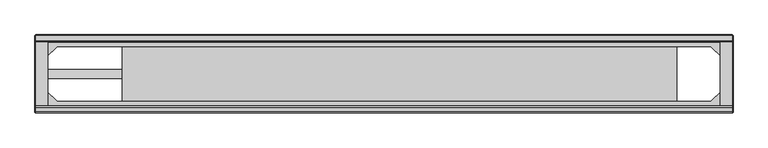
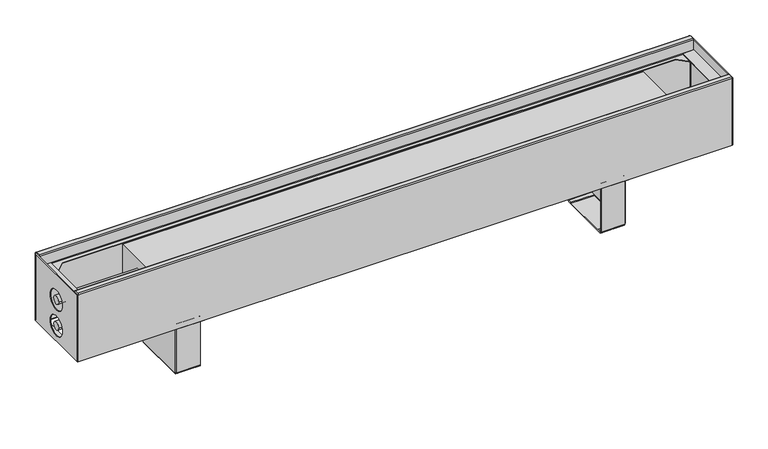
"""IFC4 building model written with IfcOpenShell, lengths in millimetres: proxy geometry, TECHNO_Конвектор напольный_Vita KPZ 135 : KPZ 135-130."""

from ifc_helpers import new_model, si_unit, point, frame, frame_2d, origin, place, context, project, spatial, polyline, circle_curve, trimmed, segment, composite_curve, outline, extrude, source, transform, mapped, element, save
from ifc_brep_helpers import plane_surface, cylinder_surface, revolved_surface, advanced_brep


def mechanical_equipment_a416251b(model_context):
    return source(origin(), model_context, "Body", "SolidModel", [
        advanced_brep(
        [(409.7, -116.8, 1.5), (409.7, -114.5, 3.8), (409.7, -114.5, 4.9), (409.7, -116.0, 4.9), (409.7, -116.0, 3.8), (409.7, -116.8, 3.0), (409.7, -124.5, 3.0), (409.7, -124.5, 1.5), (409.7, -117.6, 1.5), (409.7, -114.5, 97.7), (409.7, -113.7, 98.5), (409.7, -101.0, 98.5), (409.7, -101.0, 100.0), (409.7, -113.7, 100.0), (409.7, -116.0, 97.7), (409.7, -116.0, 95.5), (409.7, -114.5, 95.5), (409.7, -220.5, 3.8), (409.7, -218.2, 1.5), (409.7, -217.4, 1.5), (409.7, -210.5, 1.5), (409.7, -210.5, 3.0), (409.7, -218.2, 3.0), (409.7, -219.0, 3.8), (409.7, -219.0, 4.9), (409.7, -220.5, 4.9), (409.7, -219.0, 97.7), (409.7, -221.3, 100.0), (409.7, -234.0, 100.0), (409.7, -234.0, 98.5), (409.7, -221.3, 98.5), (409.7, -220.5, 97.7), (409.7, -220.5, 95.5), (409.7, -219.0, 95.5), (367.0, -220.5, 97.7), (367.0, -221.3, 98.5), (367.0, -234.0, 98.5), (367.0, -234.0, 100.0), (367.0, -221.3, 100.0), (367.0, -219.0, 97.7), (367.0, -219.0, 3.8), (367.0, -218.2, 3.0), (367.0, -210.5, 3.0), (367.0, -210.5, 1.5), (367.0, -124.5, 1.5), (367.0, -124.5, 3.0), (367.0, -116.8, 3.0), (367.0, -116.0, 3.8), (367.0, -116.0, 97.7), (367.0, -113.7, 100.0), (367.0, -101.0, 100.0), (367.0, -101.0, 98.5), (367.0, -113.7, 98.5), (367.0, -114.5, 97.7), (367.0, -114.5, 3.8), (367.0, -116.8, 1.5), (367.0, -117.6, 1.5), (367.0, -117.6, 0.0), (367.0, -217.4, 0.0), (367.0, -217.4, 1.5), (367.0, -218.2, 1.5), (367.0, -220.5, 3.8), (410.5, -116.8, 95.5), (410.5, -218.2, 95.5), (412.0, -218.2, 95.5), (412.0, -116.8, 95.5), (412.0, -116.8, 4.9), (412.0, -117.6, 4.9), (410.5, -117.6, 4.9), (410.5, -116.8, 4.9), (410.5, -218.2, 4.9), (410.5, -217.4, 4.9), (412.0, -217.4, 4.9), (412.0, -218.2, 4.9), (410.5, -117.6, 2.3), (410.5, -217.4, 2.3), (412.0, -217.4, 2.3), (412.0, -117.6, 2.3), (409.7, -117.6, 0.0), (409.7, -217.4, 0.0)],
        [
            (0, 1, circle_curve(frame((409.7, -116.8, 3.8), z_axis=(1.0, 0.0, 0.0), x_axis=(0.0, -1.0, 0.0)), 2.3)),
            (1, 2),
            (2, 3),
            (3, 4),
            (4, 5, circle_curve(frame((409.7, -116.8, 3.8), z_axis=(-1.0, 0.0, 0.0), x_axis=(0.0, -1.0, 0.0)), 0.8)),
            (5, 6),
            (6, 7),
            (7, 8),
            (8, 0),
            (9, 10, circle_curve(frame((409.7, -113.7, 97.7), z_axis=(-1.0, 0.0, 0.0), x_axis=(0.0, -1.0, 0.0)), 0.8)),
            (10, 11),
            (11, 12),
            (12, 13),
            (13, 14, circle_curve(frame((409.7, -113.7, 97.7), z_axis=(1.0, 0.0, 0.0), x_axis=(0.0, -1.0, 0.0)), 2.3)),
            (14, 15),
            (15, 16),
            (16, 9),
            (17, 18, circle_curve(frame((409.7, -218.2, 3.8), z_axis=(1.0, 0.0, 0.0), x_axis=(0.0, -1.0, 0.0)), 2.3)),
            (18, 19),
            (19, 20),
            (20, 21),
            (21, 22),
            (22, 23, circle_curve(frame((409.7, -218.2, 3.8), z_axis=(-1.0, 0.0, 0.0), x_axis=(0.0, -1.0, 0.0)), 0.8)),
            (23, 24),
            (24, 25),
            (25, 17),
            (26, 27, circle_curve(frame((409.7, -221.3, 97.7), z_axis=(1.0, 0.0, 0.0), x_axis=(0.0, -1.0, 0.0)), 2.3)),
            (27, 28),
            (28, 29),
            (29, 30),
            (30, 31, circle_curve(frame((409.7, -221.3, 97.7), z_axis=(-1.0, 0.0, 0.0), x_axis=(0.0, -1.0, 0.0)), 0.8)),
            (31, 32),
            (32, 33),
            (33, 26),
            (34, 35, circle_curve(frame((367.0, -221.3, 97.7), z_axis=(1.0, 0.0, 0.0), x_axis=(0.0, -1.0, 0.0)), 0.8)),
            (35, 36),
            (36, 37),
            (37, 38),
            (38, 39, circle_curve(frame((367.0, -221.3, 97.7), z_axis=(-1.0, 0.0, 0.0), x_axis=(0.0, -1.0, 0.0)), 2.3)),
            (39, 40),
            (40, 41, circle_curve(frame((367.0, -218.2, 3.8), z_axis=(1.0, 0.0, 0.0), x_axis=(0.0, -1.0, 0.0)), 0.8)),
            (41, 42),
            (42, 43),
            (43, 44),
            (44, 45),
            (45, 46),
            (46, 47, circle_curve(frame((367.0, -116.8, 3.8), z_axis=(1.0, 0.0, 0.0), x_axis=(0.0, -1.0, 0.0)), 0.8)),
            (47, 48),
            (48, 49, circle_curve(frame((367.0, -113.7, 97.7), z_axis=(-1.0, 0.0, 0.0), x_axis=(0.0, -1.0, 0.0)), 2.3)),
            (49, 50),
            (50, 51),
            (51, 52),
            (52, 53, circle_curve(frame((367.0, -113.7, 97.7), z_axis=(1.0, 0.0, 0.0), x_axis=(0.0, -1.0, 0.0)), 0.8)),
            (53, 54),
            (54, 55, circle_curve(frame((367.0, -116.8, 3.8), z_axis=(-1.0, 0.0, 0.0), x_axis=(0.0, -1.0, 0.0)), 2.3)),
            (55, 56),
            (56, 57),
            (57, 58),
            (58, 59),
            (59, 60),
            (60, 61, circle_curve(frame((367.0, -218.2, 3.8), z_axis=(-1.0, 0.0, 0.0), x_axis=(0.0, -1.0, 0.0)), 2.3)),
            (61, 34),
            (30, 35),
            (34, 31),
            (29, 36),
            (28, 37),
            (27, 38),
            (26, 39),
            (33, 24),
            (23, 40),
            (22, 41),
            (5, 46),
            (45, 6),
            (4, 47),
            (3, 15),
            (14, 48),
            (13, 49),
            (12, 50),
            (11, 51),
            (10, 52),
            (9, 53),
            (16, 2),
            (1, 54),
            (0, 55),
            (8, 56),
            (17, 61),
            (60, 18),
            (25, 32),
            (21, 42),
            (20, 43),
            (59, 19),
            (44, 7),
            (15, 62, circle_curve(frame((409.7, -116.8, 95.5), z_axis=(0.0, 0.0, -1.0), x_axis=(-1.0, 0.0, 0.0)), 0.8)),
            (62, 63),
            (63, 33, circle_curve(frame((409.7, -218.2, 95.5), z_axis=(0.0, 0.0, -1.0), x_axis=(-1.0, 0.0, 0.0)), 0.8)),
            (32, 64, circle_curve(frame((409.7, -218.2, 95.5), z_axis=(0.0, 0.0, 1.0), x_axis=(-1.0, 0.0, 0.0)), 2.3)),
            (64, 65),
            (65, 16, circle_curve(frame((409.7, -116.8, 95.5), z_axis=(0.0, 0.0, 1.0), x_axis=(-1.0, 0.0, 0.0)), 2.3)),
            (2, 66, circle_curve(frame((409.7, -116.8, 4.9), z_axis=(0.0, 0.0, -1.0), x_axis=(-1.0, 0.0, 0.0)), 2.3)),
            (66, 67),
            (67, 68),
            (68, 69),
            (69, 3, circle_curve(frame((409.7, -116.8, 4.9), z_axis=(0.0, 0.0, 1.0), x_axis=(-1.0, 0.0, 0.0)), 0.8)),
            (24, 70, circle_curve(frame((409.7, -218.2, 4.9), z_axis=(0.0, 0.0, 1.0), x_axis=(-1.0, 0.0, 0.0)), 0.8)),
            (70, 71),
            (71, 72),
            (72, 73),
            (73, 25, circle_curve(frame((409.7, -218.2, 4.9), z_axis=(0.0, 0.0, -1.0), x_axis=(-1.0, 0.0, 0.0)), 2.3)),
            (69, 62),
            (68, 74),
            (74, 75),
            (75, 71),
            (70, 63),
            (64, 73),
            (72, 76),
            (76, 77),
            (77, 67),
            (66, 65),
            (8, 74, circle_curve(frame((409.7, -117.6, 2.3), z_axis=(0.0, -1.0, 0.0), x_axis=(-1.0, 0.0, 0.0)), 0.8)),
            (77, 78, circle_curve(frame((409.7, -117.6, 2.3), z_axis=(0.0, 1.0, 0.0), x_axis=(-1.0, 0.0, 0.0)), 2.3)),
            (78, 57),
            (58, 79),
            (79, 76, circle_curve(frame((409.7, -217.4, 2.3), z_axis=(0.0, -1.0, 0.0), x_axis=(-1.0, 0.0, 0.0)), 2.3)),
            (75, 19, circle_curve(frame((409.7, -217.4, 2.3), z_axis=(0.0, 1.0, 0.0), x_axis=(-1.0, 0.0, 0.0)), 0.8)),
            (20, 7),
            (79, 78),
        ],
        [
            plane_surface(frame((409.7, -222.1, 97.7), z_axis=(1.0, 0.0, 0.0), x_axis=(0.0, 0.0, 1.0))),
            plane_surface(frame((367.0, -222.1, 97.7), z_axis=(-1.0, 0.0, 0.0), x_axis=(0.0, 0.0, -1.0))),
            revolved_surface(polyline([(409.7, -222.10000000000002, 97.7), (367.0, -222.10000000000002, 97.7)]), (409.7, -221.3, 97.7), (1.0, 0.0, 0.0)),
            plane_surface(frame((367.0, -221.3, 98.5), z_axis=(0.0, 0.0, -1.0), x_axis=(1.0, 0.0, 0.0))),
            plane_surface(frame((367.0, -234.0, 98.5), z_axis=(0.0, -1.0, 0.0), x_axis=(1.0, 0.0, 0.0))),
            plane_surface(frame((367.0, -234.0, 100.0), z_axis=(0.0, 0.0, 1.0), x_axis=(1.0, 0.0, 0.0))),
            cylinder_surface(frame((409.7, -221.3, 97.7), z_axis=(-1.0, 0.0, 0.0), x_axis=(0.0, -1.0, 0.0)), 2.3),
            plane_surface(frame((367.0, -219.0, 97.7), z_axis=(0.0, 1.0, 0.0), x_axis=(1.0, 0.0, 0.0))),
            revolved_surface(polyline([(409.7, -219.0, 3.8), (367.0, -219.0, 3.8)]), (409.7, -218.2, 3.8), (1.0, 0.0, 0.0)),
            plane_surface(frame((367.0, -124.5, 3.0), z_axis=(0.0, 0.0, 1.0), x_axis=(1.0, 0.0, 0.0))),
            revolved_surface(polyline([(409.7, -117.6, 3.8), (367.0, -117.6, 3.8)]), (412.0, -116.8, 3.8), (1.0, 0.0, 0.0)),
            plane_surface(frame((367.0, -116.0, 3.8), z_axis=(0.0, -1.0, 0.0), x_axis=(1.0, 0.0, 0.0))),
            cylinder_surface(frame((412.0, -113.7, 97.7), z_axis=(-1.0, 0.0, 0.0), x_axis=(0.0, -1.0, 0.0)), 2.3),
            plane_surface(frame((367.0, -113.7, 100.0), z_axis=(0.0, 0.0, 1.0), x_axis=(1.0, 0.0, 0.0))),
            plane_surface(frame((367.0, -101.0, 100.0), z_axis=(0.0, 1.0, 0.0), x_axis=(1.0, 0.0, 0.0))),
            plane_surface(frame((367.0, -101.0, 98.5), z_axis=(0.0, 0.0, -1.0), x_axis=(1.0, 0.0, 0.0))),
            revolved_surface(polyline([(409.7, -114.5, 97.7), (367.0, -114.5, 97.7)]), (412.0, -113.7, 97.7), (1.0, 0.0, 0.0)),
            plane_surface(frame((367.0, -114.5, 97.7), z_axis=(0.0, 1.0, 0.0), x_axis=(1.0, 0.0, 0.0))),
            cylinder_surface(frame((412.0, -116.8, 3.8), z_axis=(-1.0, 0.0, 0.0), x_axis=(0.0, -1.0, 0.0)), 2.3),
            plane_surface(frame((367.0, -116.8, 1.5), z_axis=(0.0, 0.0, -1.0), x_axis=(1.0, 0.0, 0.0))),
            cylinder_surface(frame((409.7, -218.2, 3.8), z_axis=(-1.0, 0.0, 0.0), x_axis=(0.0, -1.0, 0.0)), 2.3),
            plane_surface(frame((367.0, -220.5, 3.8), z_axis=(0.0, -1.0, 0.0), x_axis=(1.0, 0.0, 0.0))),
            plane_surface(frame((367.0, -218.2, 3.0), z_axis=(0.0, 0.0, 1.0), x_axis=(1.0, 0.0, 0.0))),
            plane_surface(frame((367.0, -210.5, 3.0), z_axis=(0.0, 1.0, 0.0), x_axis=(1.0, 0.0, 0.0))),
            plane_surface(frame((367.0, -210.5, 1.5), z_axis=(0.0, 0.0, -1.0), x_axis=(1.0, 0.0, 0.0))),
            plane_surface(frame((367.0, -124.5, 1.5), z_axis=(0.0, -1.0, 0.0), x_axis=(1.0, 0.0, 0.0))),
            plane_surface(frame((409.7, -116.0, 95.5), z_axis=(0.0, 0.0, 1.0), x_axis=(0.0, -1.0, 0.0))),
            plane_surface(frame((409.7, -116.0, 4.9), z_axis=(0.0, 0.0, -1.0), x_axis=(0.0, 1.0, 0.0))),
            revolved_surface(polyline([(408.9, -116.8, 4.9), (408.9, -116.8, 95.5)]), (409.7, -116.8, 4.9), (0.0, 0.0, -1.0)),
            plane_surface(frame((410.5, -116.8, 95.5), z_axis=(-1.0, 0.0, 0.0), x_axis=(0.0, 0.0, -1.0))),
            plane_surface(frame((412.0, -117.6, 95.5), z_axis=(1.0, 0.0, 0.0), x_axis=(0.0, 0.0, -1.0))),
            cylinder_surface(frame((409.7, -116.8, 4.9), z_axis=(0.0, 0.0, 1.0), x_axis=(-1.0, 0.0, 0.0)), 2.3),
            cylinder_surface(frame((409.7, -218.2, 0.0), z_axis=(0.0, 0.0, 1.0), x_axis=(-1.0, 0.0, 0.0)), 2.3),
            revolved_surface(polyline([(408.9, -218.2, 4.9), (408.9, -218.2, 95.5)]), (409.7, -218.2, 0.0), (0.0, 0.0, -1.0)),
            plane_surface(frame((367.0, -117.6, 1.5), z_axis=(0.0, 1.0, 0.0), x_axis=(0.0, 0.0, 1.0))),
            plane_surface(frame((367.0, -217.4, 1.5), z_axis=(0.0, -1.0, 0.0), x_axis=(0.0, 0.0, -1.0))),
            plane_surface(frame((367.0, -117.6, 1.5), z_axis=(0.0, 0.0, 1.0), x_axis=(0.0, -1.0, 0.0))),
            revolved_surface(polyline([(408.9, -217.4, 2.3), (408.9, -117.6, 2.3)]), (409.7, -217.4, 2.3), (0.0, -1.0, 0.0)),
            cylinder_surface(frame((409.7, -217.4, 2.3), z_axis=(0.0, 1.0, 0.0), x_axis=(-1.0, 0.0, 0.0)), 2.3),
            plane_surface(frame((409.7, -117.6, 0.0), z_axis=(0.0, 0.0, -1.0), x_axis=(0.0, -1.0, 0.0))),
        ],
        [
            (0, [[1, 2, 3, 4, 5, 6, 7, 8, 9]]),
            (0, [[10, 11, 12, 13, 14, 15, 16, 17]]),
            (0, [[18, 19, 20, 21, 22, 23, 24, 25, 26]]),
            (0, [[27, 28, 29, 30, 31, 32, 33, 34]]),
            (1, [[35, 36, 37, 38, 39, 40, 41, 42, 43, 44, 45, 46, 47, 48, 49, 50, 51, 52, 53, 54, 55, 56, 57, 58, 59, 60, 61, 62]]),
            (2, [[-31, 63, -35, 64]]),
            (3, [[-30, 65, -36, -63]]),
            (4, [[-29, 66, -37, -65]]),
            (5, [[-28, 67, -38, -66]]),
            (6, [[-27, 68, -39, -67]]),
            (7, [[-40, -68, -34, 69, -24, 70]]),
            (8, [[-23, 71, -41, -70]]),
            (9, [[-6, 72, -46, 73]]),
            (10, [[-5, 74, -47, -72]]),
            (11, [[-48, -74, -4, 75, -15, 76]]),
            (12, [[-14, 77, -49, -76]]),
            (13, [[-13, 78, -50, -77]]),
            (14, [[-12, 79, -51, -78]]),
            (15, [[-11, 80, -52, -79]]),
            (16, [[-10, 81, -53, -80]]),
            (17, [[-54, -81, -17, 82, -2, 83]]),
            (18, [[-1, 84, -55, -83]]),
            (19, [[-84, -9, 85, -56]]),
            (20, [[-18, 86, -61, 87]]),
            (21, [[-62, -86, -26, 88, -32, -64]]),
            (22, [[-22, 89, -42, -71]]),
            (23, [[-21, 90, -43, -89]]),
            (24, [[-87, -60, 91, -19]]),
            (25, [[-7, -73, -45, 92]]),
            (26, [[93, 94, 95, -33, 96, 97, 98, -16]]),
            (27, [[99, 100, 101, 102, 103, -3]]),
            (27, [[104, 105, 106, 107, 108, -25]]),
            (28, [[-93, -75, -103, 109]]),
            (29, [[-94, -109, -102, 110, 111, 112, -105, 113]]),
            (30, [[-97, 114, -107, 115, 116, 117, -100, 118]]),
            (31, [[-98, -118, -99, -82]]),
            (32, [[-96, -88, -108, -114]]),
            (33, [[-95, -113, -104, -69]]),
            (34, [[-57, -85, 119, -110, -101, -117, 120, 121]]),
            (35, [[122, 123, -115, -106, -112, 124, -91, -59]]),
            (36, [[125, -92, -44, -90]]),
            (37, [[-119, -8, -125, -20, -124, -111]]),
            (38, [[-120, -116, -123, 126]]),
            (39, [[-121, -126, -122, -58]]),
        ],
    ),
        advanced_brep(
        [(-409.7, -218.2, 1.5), (-409.7, -220.5, 3.8), (-409.7, -220.5, 4.9), (-409.7, -219.0, 4.9), (-409.7, -219.0, 3.8), (-409.7, -218.2, 3.0), (-409.7, -210.5, 3.0), (-409.7, -210.5, 1.5), (-409.7, -217.4, 1.5), (-409.7, -220.5, 97.7), (-409.7, -221.3, 98.5), (-409.7, -234.0, 98.5), (-409.7, -234.0, 100.0), (-409.7, -221.3, 100.0), (-409.7, -219.0, 97.7), (-409.7, -219.0, 95.5), (-409.7, -220.5, 95.5), (-409.7, -114.5, 3.8), (-409.7, -116.8, 1.5), (-409.7, -117.6, 1.5), (-409.7, -124.5, 1.5), (-409.7, -124.5, 3.0), (-409.7, -116.8, 3.0), (-409.7, -116.0, 3.8), (-409.7, -116.0, 4.9), (-409.7, -114.5, 4.9), (-409.7, -116.0, 97.7), (-409.7, -113.7, 100.0), (-409.7, -101.0, 100.0), (-409.7, -101.0, 98.5), (-409.7, -113.7, 98.5), (-409.7, -114.5, 97.7), (-409.7, -114.5, 95.5), (-409.7, -116.0, 95.5), (-367.0, -114.5, 97.7), (-367.0, -113.7, 98.5), (-367.0, -101.0, 98.5), (-367.0, -101.0, 100.0), (-367.0, -113.7, 100.0), (-367.0, -116.0, 97.7), (-367.0, -116.0, 3.8), (-367.0, -116.8, 3.0), (-367.0, -124.5, 3.0), (-367.0, -124.5, 1.5), (-367.0, -210.5, 1.5), (-367.0, -210.5, 3.0), (-367.0, -218.2, 3.0), (-367.0, -219.0, 3.8), (-367.0, -219.0, 97.7), (-367.0, -221.3, 100.0), (-367.0, -234.0, 100.0), (-367.0, -234.0, 98.5), (-367.0, -221.3, 98.5), (-367.0, -220.5, 97.7), (-367.0, -220.5, 3.8), (-367.0, -218.2, 1.5), (-367.0, -217.4, 1.5), (-367.0, -217.4, 0.0), (-367.0, -117.6, 0.0), (-367.0, -117.6, 1.5), (-367.0, -116.8, 1.5), (-367.0, -114.5, 3.8), (-410.5, -218.2, 95.5), (-410.5, -116.8, 95.5), (-412.0, -116.8, 95.5), (-412.0, -218.2, 95.5), (-412.0, -218.2, 4.9), (-412.0, -217.4, 4.9), (-410.5, -217.4, 4.9), (-410.5, -218.2, 4.9), (-410.5, -116.8, 4.9), (-410.5, -117.6, 4.9), (-412.0, -117.6, 4.9), (-412.0, -116.8, 4.9), (-410.5, -217.4, 2.3), (-410.5, -117.6, 2.3), (-412.0, -117.6, 2.3), (-412.0, -217.4, 2.3), (-409.7, -217.4, 0.0), (-409.7, -117.6, 0.0)],
        [
            (0, 1, circle_curve(frame((-409.7, -218.2, 3.8), z_axis=(-1.0, 0.0, 0.0), x_axis=(0.0, 1.0, 0.0)), 2.3)),
            (1, 2),
            (2, 3),
            (3, 4),
            (4, 5, circle_curve(frame((-409.7, -218.2, 3.8), z_axis=(1.0, 0.0, 0.0), x_axis=(0.0, 1.0, 0.0)), 0.8)),
            (5, 6),
            (6, 7),
            (7, 8),
            (8, 0),
            (9, 10, circle_curve(frame((-409.7, -221.3, 97.7), z_axis=(1.0, 0.0, 0.0), x_axis=(0.0, 1.0, 0.0)), 0.8)),
            (10, 11),
            (11, 12),
            (12, 13),
            (13, 14, circle_curve(frame((-409.7, -221.3, 97.7), z_axis=(-1.0, 0.0, 0.0), x_axis=(0.0, 1.0, 0.0)), 2.3)),
            (14, 15),
            (15, 16),
            (16, 9),
            (17, 18, circle_curve(frame((-409.7, -116.8, 3.8), z_axis=(-1.0, 0.0, 0.0), x_axis=(0.0, 1.0, 0.0)), 2.3)),
            (18, 19),
            (19, 20),
            (20, 21),
            (21, 22),
            (22, 23, circle_curve(frame((-409.7, -116.8, 3.8), z_axis=(1.0, 0.0, 0.0), x_axis=(0.0, 1.0, 0.0)), 0.8)),
            (23, 24),
            (24, 25),
            (25, 17),
            (26, 27, circle_curve(frame((-409.7, -113.7, 97.7), z_axis=(-1.0, 0.0, 0.0), x_axis=(0.0, 1.0, 0.0)), 2.3)),
            (27, 28),
            (28, 29),
            (29, 30),
            (30, 31, circle_curve(frame((-409.7, -113.7, 97.7), z_axis=(1.0, 0.0, 0.0), x_axis=(0.0, 1.0, 0.0)), 0.8)),
            (31, 32),
            (32, 33),
            (33, 26),
            (34, 35, circle_curve(frame((-367.0, -113.7, 97.7), z_axis=(-1.0, 0.0, 0.0), x_axis=(0.0, 1.0, 0.0)), 0.8)),
            (35, 36),
            (36, 37),
            (37, 38),
            (38, 39, circle_curve(frame((-367.0, -113.7, 97.7), z_axis=(1.0, 0.0, 0.0), x_axis=(0.0, 1.0, 0.0)), 2.3)),
            (39, 40),
            (40, 41, circle_curve(frame((-367.0, -116.8, 3.8), z_axis=(-1.0, 0.0, 0.0), x_axis=(0.0, 1.0, 0.0)), 0.8)),
            (41, 42),
            (42, 43),
            (43, 44),
            (44, 45),
            (45, 46),
            (46, 47, circle_curve(frame((-367.0, -218.2, 3.8), z_axis=(-1.0, 0.0, 0.0), x_axis=(0.0, 1.0, 0.0)), 0.8)),
            (47, 48),
            (48, 49, circle_curve(frame((-367.0, -221.3, 97.7), z_axis=(1.0, 0.0, 0.0), x_axis=(0.0, 1.0, 0.0)), 2.3)),
            (49, 50),
            (50, 51),
            (51, 52),
            (52, 53, circle_curve(frame((-367.0, -221.3, 97.7), z_axis=(-1.0, 0.0, 0.0), x_axis=(0.0, 1.0, 0.0)), 0.8)),
            (53, 54),
            (54, 55, circle_curve(frame((-367.0, -218.2, 3.8), z_axis=(1.0, 0.0, 0.0), x_axis=(0.0, 1.0, 0.0)), 2.3)),
            (55, 56),
            (56, 57),
            (57, 58),
            (58, 59),
            (59, 60),
            (60, 61, circle_curve(frame((-367.0, -116.8, 3.8), z_axis=(1.0, 0.0, 0.0), x_axis=(0.0, 1.0, 0.0)), 2.3)),
            (61, 34),
            (30, 35),
            (34, 31),
            (29, 36),
            (28, 37),
            (27, 38),
            (26, 39),
            (33, 24),
            (23, 40),
            (22, 41),
            (5, 46),
            (45, 6),
            (4, 47),
            (3, 15),
            (14, 48),
            (13, 49),
            (12, 50),
            (11, 51),
            (10, 52),
            (9, 53),
            (16, 2),
            (1, 54),
            (0, 55),
            (8, 56),
            (17, 61),
            (60, 18),
            (25, 32),
            (21, 42),
            (20, 43),
            (59, 19),
            (44, 7),
            (15, 62, circle_curve(frame((-409.7, -218.2, 95.5), z_axis=(0.0, 0.0, -1.0), x_axis=(1.0, 0.0, 0.0)), 0.8)),
            (62, 63),
            (63, 33, circle_curve(frame((-409.7, -116.8, 95.5), z_axis=(0.0, 0.0, -1.0), x_axis=(1.0, 0.0, 0.0)), 0.8)),
            (32, 64, circle_curve(frame((-409.7, -116.8, 95.5), z_axis=(0.0, 0.0, 1.0), x_axis=(1.0, 0.0, 0.0)), 2.3)),
            (64, 65),
            (65, 16, circle_curve(frame((-409.7, -218.2, 95.5), z_axis=(0.0, 0.0, 1.0), x_axis=(1.0, 0.0, 0.0)), 2.3)),
            (2, 66, circle_curve(frame((-409.7, -218.2, 4.9), z_axis=(0.0, 0.0, -1.0), x_axis=(1.0, 0.0, 0.0)), 2.3)),
            (66, 67),
            (67, 68),
            (68, 69),
            (69, 3, circle_curve(frame((-409.7, -218.2, 4.9), z_axis=(0.0, 0.0, 1.0), x_axis=(1.0, 0.0, 0.0)), 0.8)),
            (24, 70, circle_curve(frame((-409.7, -116.8, 4.9), z_axis=(0.0, 0.0, 1.0), x_axis=(1.0, 0.0, 0.0)), 0.8)),
            (70, 71),
            (71, 72),
            (72, 73),
            (73, 25, circle_curve(frame((-409.7, -116.8, 4.9), z_axis=(0.0, 0.0, -1.0), x_axis=(1.0, 0.0, 0.0)), 2.3)),
            (69, 62),
            (68, 74),
            (74, 75),
            (75, 71),
            (70, 63),
            (64, 73),
            (72, 76),
            (76, 77),
            (77, 67),
            (66, 65),
            (8, 74, circle_curve(frame((-409.7, -217.4, 2.3), z_axis=(0.0, 1.0, 0.0), x_axis=(1.0, 0.0, 0.0)), 0.8)),
            (77, 78, circle_curve(frame((-409.7, -217.4, 2.3), z_axis=(0.0, -1.0, 0.0), x_axis=(1.0, 0.0, 0.0)), 2.3)),
            (78, 57),
            (58, 79),
            (79, 76, circle_curve(frame((-409.7, -117.6, 2.3), z_axis=(0.0, 1.0, 0.0), x_axis=(1.0, 0.0, 0.0)), 2.3)),
            (75, 19, circle_curve(frame((-409.7, -117.6, 2.3), z_axis=(0.0, -1.0, 0.0), x_axis=(1.0, 0.0, 0.0)), 0.8)),
            (20, 7),
            (79, 78),
        ],
        [
            plane_surface(frame((-409.7, -112.9, 97.7), z_axis=(-1.0, 0.0, 0.0), x_axis=(0.0, 0.0, 1.0))),
            plane_surface(frame((-367.0, -112.9, 97.7), z_axis=(1.0, 0.0, 0.0), x_axis=(0.0, 0.0, -1.0))),
            revolved_surface(polyline([(-409.7, -112.9, 97.7), (-367.0, -112.9, 97.7)]), (-409.7, -113.7, 97.7), (-1.0, 0.0, 0.0)),
            plane_surface(frame((-367.0, -113.7, 98.5), z_axis=(0.0, 0.0, -1.0), x_axis=(-1.0, 0.0, 0.0))),
            plane_surface(frame((-367.0, -101.0, 98.5), z_axis=(0.0, 1.0, 0.0), x_axis=(-1.0, 0.0, 0.0))),
            plane_surface(frame((-367.0, -101.0, 100.0), z_axis=(0.0, 0.0, 1.0), x_axis=(-1.0, 0.0, 0.0))),
            cylinder_surface(frame((-409.7, -113.7, 97.7), z_axis=(1.0, 0.0, 0.0), x_axis=(0.0, 1.0, 0.0)), 2.3),
            plane_surface(frame((-367.0, -116.0, 97.7), z_axis=(0.0, -1.0, 0.0), x_axis=(-1.0, 0.0, 0.0))),
            revolved_surface(polyline([(-409.7, -116.0, 3.8), (-367.0, -116.0, 3.8)]), (-409.7, -116.8, 3.8), (-1.0, 0.0, 0.0)),
            plane_surface(frame((-367.0, -210.5, 3.0), z_axis=(0.0, 0.0, 1.0), x_axis=(-1.0, 0.0, 0.0))),
            revolved_surface(polyline([(-409.7, -217.39999999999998, 3.8), (-367.0, -217.39999999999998, 3.8)]), (-412.0, -218.2, 3.8), (-1.0, 0.0, 0.0)),
            plane_surface(frame((-367.0, -219.0, 3.8), z_axis=(0.0, 1.0, 0.0), x_axis=(-1.0, 0.0, 0.0))),
            cylinder_surface(frame((-412.0, -221.3, 97.7), z_axis=(1.0, 0.0, 0.0), x_axis=(0.0, 1.0, 0.0)), 2.3),
            plane_surface(frame((-367.0, -221.3, 100.0), z_axis=(0.0, 0.0, 1.0), x_axis=(-1.0, 0.0, 0.0))),
            plane_surface(frame((-367.0, -234.0, 100.0), z_axis=(0.0, -1.0, 0.0), x_axis=(-1.0, 0.0, 0.0))),
            plane_surface(frame((-367.0, -234.0, 98.5), z_axis=(0.0, 0.0, -1.0), x_axis=(-1.0, 0.0, 0.0))),
            revolved_surface(polyline([(-409.7, -220.5, 97.7), (-367.0, -220.5, 97.7)]), (-412.0, -221.3, 97.7), (-1.0, 0.0, 0.0)),
            plane_surface(frame((-367.0, -220.5, 97.7), z_axis=(0.0, -1.0, 0.0), x_axis=(-1.0, 0.0, 0.0))),
            cylinder_surface(frame((-412.0, -218.2, 3.8), z_axis=(1.0, 0.0, 0.0), x_axis=(0.0, 1.0, 0.0)), 2.3),
            plane_surface(frame((-367.0, -218.2, 1.5), z_axis=(0.0, 0.0, -1.0), x_axis=(-1.0, 0.0, 0.0))),
            cylinder_surface(frame((-409.7, -116.8, 3.8), z_axis=(1.0, 0.0, 0.0), x_axis=(0.0, 1.0, 0.0)), 2.3),
            plane_surface(frame((-367.0, -114.5, 3.8), z_axis=(0.0, 1.0, 0.0), x_axis=(-1.0, 0.0, 0.0))),
            plane_surface(frame((-367.0, -116.8, 3.0), z_axis=(0.0, 0.0, 1.0), x_axis=(-1.0, 0.0, 0.0))),
            plane_surface(frame((-367.0, -124.5, 3.0), z_axis=(0.0, -1.0, 0.0), x_axis=(-1.0, 0.0, 0.0))),
            plane_surface(frame((-367.0, -124.5, 1.5), z_axis=(0.0, 0.0, -1.0), x_axis=(-1.0, 0.0, 0.0))),
            plane_surface(frame((-367.0, -210.5, 1.5), z_axis=(0.0, 1.0, 0.0), x_axis=(-1.0, 0.0, 0.0))),
            plane_surface(frame((-409.7, -219.0, 95.5), z_axis=(0.0, 0.0, 1.0), x_axis=(0.0, 1.0, 0.0))),
            plane_surface(frame((-409.7, -219.0, 4.9), z_axis=(0.0, 0.0, -1.0), x_axis=(0.0, -1.0, 0.0))),
            revolved_surface(polyline([(-408.9, -218.2, 4.9), (-408.9, -218.2, 95.5)]), (-409.7, -218.2, 4.9), (0.0, 0.0, -1.0)),
            plane_surface(frame((-410.5, -218.2, 95.5), z_axis=(1.0, 0.0, 0.0), x_axis=(0.0, 0.0, -1.0))),
            plane_surface(frame((-412.0, -217.4, 95.5), z_axis=(-1.0, 0.0, 0.0), x_axis=(0.0, 0.0, -1.0))),
            cylinder_surface(frame((-409.7, -218.2, 4.9), z_axis=(0.0, 0.0, 1.0), x_axis=(1.0, 0.0, 0.0)), 2.3),
            cylinder_surface(frame((-409.7, -116.8, 0.0), z_axis=(0.0, 0.0, 1.0), x_axis=(1.0, 0.0, 0.0)), 2.3),
            revolved_surface(polyline([(-408.9, -116.8, 4.9), (-408.9, -116.8, 95.5)]), (-409.7, -116.8, 0.0), (0.0, 0.0, -1.0)),
            plane_surface(frame((-367.0, -217.4, 1.5), z_axis=(0.0, -1.0, 0.0), x_axis=(0.0, 0.0, 1.0))),
            plane_surface(frame((-367.0, -117.6, 1.5), z_axis=(0.0, 1.0, 0.0), x_axis=(0.0, 0.0, -1.0))),
            plane_surface(frame((-367.0, -217.4, 1.5), z_axis=(0.0, 0.0, 1.0), x_axis=(0.0, 1.0, 0.0))),
            revolved_surface(polyline([(-408.9, -117.6, 2.3), (-408.9, -217.4, 2.3)]), (-409.7, -117.6, 2.3), (0.0, 1.0, 0.0)),
            cylinder_surface(frame((-409.7, -117.6, 2.3), z_axis=(0.0, -1.0, 0.0), x_axis=(1.0, 0.0, 0.0)), 2.3),
            plane_surface(frame((-409.7, -217.4, 0.0), z_axis=(0.0, 0.0, -1.0), x_axis=(0.0, 1.0, 0.0))),
        ],
        [
            (0, [[1, 2, 3, 4, 5, 6, 7, 8, 9]]),
            (0, [[10, 11, 12, 13, 14, 15, 16, 17]]),
            (0, [[18, 19, 20, 21, 22, 23, 24, 25, 26]]),
            (0, [[27, 28, 29, 30, 31, 32, 33, 34]]),
            (1, [[35, 36, 37, 38, 39, 40, 41, 42, 43, 44, 45, 46, 47, 48, 49, 50, 51, 52, 53, 54, 55, 56, 57, 58, 59, 60, 61, 62]]),
            (2, [[-31, 63, -35, 64]]),
            (3, [[-30, 65, -36, -63]]),
            (4, [[-29, 66, -37, -65]]),
            (5, [[-28, 67, -38, -66]]),
            (6, [[-27, 68, -39, -67]]),
            (7, [[-40, -68, -34, 69, -24, 70]]),
            (8, [[-23, 71, -41, -70]]),
            (9, [[-6, 72, -46, 73]]),
            (10, [[-5, 74, -47, -72]]),
            (11, [[-48, -74, -4, 75, -15, 76]]),
            (12, [[-14, 77, -49, -76]]),
            (13, [[-13, 78, -50, -77]]),
            (14, [[-12, 79, -51, -78]]),
            (15, [[-11, 80, -52, -79]]),
            (16, [[-10, 81, -53, -80]]),
            (17, [[-54, -81, -17, 82, -2, 83]]),
            (18, [[-1, 84, -55, -83]]),
            (19, [[-84, -9, 85, -56]]),
            (20, [[-18, 86, -61, 87]]),
            (21, [[-62, -86, -26, 88, -32, -64]]),
            (22, [[-22, 89, -42, -71]]),
            (23, [[-21, 90, -43, -89]]),
            (24, [[-87, -60, 91, -19]]),
            (25, [[-7, -73, -45, 92]]),
            (26, [[93, 94, 95, -33, 96, 97, 98, -16]]),
            (27, [[99, 100, 101, 102, 103, -3]]),
            (27, [[104, 105, 106, 107, 108, -25]]),
            (28, [[-93, -75, -103, 109]]),
            (29, [[-94, -109, -102, 110, 111, 112, -105, 113]]),
            (30, [[-97, 114, -107, 115, 116, 117, -100, 118]]),
            (31, [[-98, -118, -99, -82]]),
            (32, [[-96, -88, -108, -114]]),
            (33, [[-95, -113, -104, -69]]),
            (34, [[-57, -85, 119, -110, -101, -117, 120, 121]]),
            (35, [[122, 123, -115, -106, -112, 124, -91, -59]]),
            (36, [[125, -92, -44, -90]]),
            (37, [[-119, -8, -125, -20, -124, -111]]),
            (38, [[-120, -116, -123, 126]]),
            (39, [[-121, -126, -122, -58]]),
        ],
    ),
        extrude(outline(polyline([(503.5, -117.5), (503.5, -217.5), (-449.5, -217.5), (-449.5, -117.5), (503.5, -117.5)])), frame((0.0, 0.0, 103.87), z_axis=(0.0, 0.0, 1.0), x_axis=(1.0, 0.0, 0.0)), (0.0, 0.0, 1.0), 100.0),
        extrude(outline(composite_curve([segment(trimmed(circle_curve(frame_2d((-167.5, 179.0)), 7.5), [point((-175.0, 179.0))], [point((-160.0, 179.0))], False, "CARTESIAN"), True, "CONTINUOUS"), segment(trimmed(circle_curve(frame_2d((-167.5, 179.0)), 7.5), [point((-160.0, 179.0))], [point((-175.0, 179.0))], False, "CARTESIAN"), True, "CONTINUOUS")], self_intersect=False)), frame((-600.0, 0.0, 0.0), z_axis=(1.0, 0.0, 0.0), x_axis=(0.0, 1.0, 0.0)), (0.0, 0.0, 1.0), 150.5),
        extrude(outline(composite_curve([segment(trimmed(circle_curve(frame_2d((-167.5, 129.0)), 7.5), [point((-175.0, 129.0))], [point((-160.0, 129.0))], False, "CARTESIAN"), True, "CONTINUOUS"), segment(trimmed(circle_curve(frame_2d((-167.5, 129.0)), 7.5), [point((-160.0, 129.0))], [point((-175.0, 129.0))], False, "CARTESIAN"), True, "CONTINUOUS")], self_intersect=False)), frame((-600.0, 0.0, 0.0), z_axis=(1.0, 0.0, 0.0), x_axis=(0.0, 1.0, 0.0)), (0.0, 0.0, 1.0), 150.5),
        extrude(outline(polyline([(-585.5004, -102.0), (-585.5004, -233.0), (-599.0, -233.0), (-599.0, -102.0), (-585.5004, -102.0)])), frame((0.0, 0.0, 101.83), z_axis=(0.0, 0.0, 1.0), x_axis=(1.0, 0.0, 0.0)), (0.0, 0.0, 1.0), 1.0002),
        extrude(outline(polyline([(585.5004, -102.0), (599.0, -102.0), (599.0, -233.0), (585.5004, -233.0), (585.5004, -102.0)])), frame((0.0, 0.0, 101.83), z_axis=(0.0, 0.0, 1.0), x_axis=(1.0, 0.0, 0.0)), (0.0, 0.0, 1.0), 1.0002),
        extrude(outline(polyline([(-599.0, -222.2), (-599.0, -112.8), (-578.0, -112.8), (-578.0, -222.2), (-599.0, -222.2)])), frame((0.0, 0.0, 208.83), z_axis=(0.0, 0.0, 1.0), x_axis=(1.0, 0.0, 0.0)), (0.0, 0.0, 1.0), 1.0002),
        extrude(outline(polyline([(599.0, -222.2), (578.0, -222.2), (578.0, -112.8), (599.0, -112.8), (599.0, -222.2)])), frame((0.0, 0.0, 208.83), z_axis=(0.0, 0.0, 1.0), x_axis=(1.0, 0.0, 0.0)), (0.0, 0.0, 1.0), 1.0002),
        advanced_brep(
        [(-598.2, -101.8, 230.83), (-598.2, -100.0, 229.03), (-598.2, -101.0, 229.03), (-598.2, -101.0, 207.83), (-598.2, -138.5, 207.83), (-598.2, -138.5, 208.83), (-598.2, -112.8, 208.83), (-598.2, -112.0, 209.63), (-598.2, -112.0, 229.03), (-598.2, -110.2, 230.83), (-598.2, -233.2, 230.83), (-598.2, -224.8, 230.83), (-598.2, -223.0, 229.03), (-598.2, -223.0, 209.63), (-598.2, -222.2, 208.83), (-598.2, -196.5, 208.83), (-598.2, -196.5, 207.83), (-598.2, -234.0, 207.83), (-598.2, -234.0, 229.03), (-598.2, -235.0, 229.03), (598.2, -101.8, 230.83), (598.2, -110.2, 230.83), (598.2, -112.0, 229.03), (598.2, -112.0, 209.63), (598.2, -112.8, 208.83), (598.2, -138.5, 208.83), (598.2, -138.5, 207.83), (598.2, -101.0, 207.83), (598.2, -101.0, 229.03), (598.2, -100.0, 229.03), (598.2, -233.2, 230.83), (598.2, -235.0, 229.03), (598.2, -234.0, 229.03), (598.2, -234.0, 207.83), (598.2, -196.5, 207.83), (598.2, -196.5, 208.83), (598.2, -222.2, 208.83), (598.2, -223.0, 209.63), (598.2, -223.0, 229.03), (598.2, -224.8, 230.83), (-580.3, -138.5, 208.83), (-561.8, -120.0, 208.83), (561.8, -120.0, 208.83), (580.3, -138.5, 208.83), (-580.3, -138.5, 207.83), (580.3, -138.5, 207.83), (561.8, -120.0, 207.83), (-561.8, -120.0, 207.83), (598.2, -100.0, 100.0), (-598.2, -100.0, 100.0), (-598.2, -235.0, 100.0), (598.2, -235.0, 100.0), (580.3, -196.5, 207.83), (-580.3, -196.5, 207.83), (-561.8, -215.0, 207.83), (561.8, -215.0, 207.83), (-580.3, -196.5, 208.83), (580.3, -196.5, 208.83), (561.8, -215.0, 208.83), (-561.8, -215.0, 208.83), (-600.0, -101.8, 229.03), (-600.0, -233.2, 229.03), (-599.0, -233.2, 229.03), (-599.0, -101.8, 229.03), (600.0, -233.2, 229.03), (600.0, -101.8, 229.03), (599.0, -101.8, 229.03), (599.0, -233.2, 229.03), (600.0, -101.8, 100.0), (600.0, -233.2, 100.0), (-600.0, -233.2, 100.0), (-600.0, -101.8, 100.0), (599.0, -101.8, 100.0), (598.2, -101.0, 100.0), (598.2, -113.0, 100.0), (-598.2, -113.0, 100.0), (-598.2, -101.0, 100.0), (-599.0, -101.8, 100.0), (-599.0, -233.2, 100.0), (-598.2, -234.0, 100.0), (-598.2, -222.0, 100.0), (598.2, -222.0, 100.0), (598.2, -234.0, 100.0), (599.0, -233.2, 100.0), (-598.2, -101.0, 100.83), (598.2, -101.0, 100.83), (598.2, -234.0, 100.83), (-598.2, -234.0, 100.83), (-600.0, -186.5, 179.0), (-600.0, -148.5, 179.0), (-600.0, -186.5, 129.0), (-600.0, -148.5, 129.0), (-599.0, -148.5, 179.0), (-599.0, -186.5, 179.0), (-599.0, -148.5, 129.0), (-599.0, -186.5, 129.0), (-598.2, -113.0, 100.83), (598.2, -113.0, 100.83), (598.2, -222.0, 100.83), (-598.2, -222.0, 100.83)],
        [
            (0, 1, circle_curve(frame((-598.2, -101.8, 229.03), z_axis=(-1.0, 0.0, 0.0), x_axis=(0.0, 1.0, 0.0)), 1.8)),
            (1, 2),
            (2, 3),
            (3, 4),
            (4, 5),
            (5, 6),
            (6, 7, circle_curve(frame((-598.2, -112.8, 209.63), z_axis=(1.0, 0.0, 0.0), x_axis=(0.0, 1.0, 0.0)), 0.8)),
            (7, 8),
            (8, 9, circle_curve(frame((-598.2, -110.2, 229.03), z_axis=(-1.0, 0.0, 0.0), x_axis=(0.0, 1.0, 0.0)), 1.8)),
            (9, 0),
            (10, 11),
            (11, 12, circle_curve(frame((-598.2, -224.8, 229.03), z_axis=(-1.0, 0.0, 0.0), x_axis=(0.0, 1.0, 0.0)), 1.8)),
            (12, 13),
            (13, 14, circle_curve(frame((-598.2, -222.2, 209.63), z_axis=(1.0, 0.0, 0.0), x_axis=(0.0, 1.0, 0.0)), 0.8)),
            (14, 15),
            (15, 16),
            (16, 17),
            (17, 18),
            (18, 19),
            (19, 10, circle_curve(frame((-598.2, -233.2, 229.03), z_axis=(-1.0, 0.0, 0.0), x_axis=(0.0, 1.0, 0.0)), 1.8)),
            (20, 21),
            (21, 22, circle_curve(frame((598.2, -110.2, 229.03), z_axis=(1.0, 0.0, 0.0), x_axis=(0.0, 1.0, 0.0)), 1.8)),
            (22, 23),
            (23, 24, circle_curve(frame((598.2, -112.8, 209.63), z_axis=(-1.0, 0.0, 0.0), x_axis=(0.0, 1.0, 0.0)), 0.8)),
            (24, 25),
            (25, 26),
            (26, 27),
            (27, 28),
            (28, 29),
            (29, 20, circle_curve(frame((598.2, -101.8, 229.03), z_axis=(1.0, 0.0, 0.0), x_axis=(0.0, 1.0, 0.0)), 1.8)),
            (30, 31, circle_curve(frame((598.2, -233.2, 229.03), z_axis=(1.0, 0.0, 0.0), x_axis=(0.0, 1.0, 0.0)), 1.8)),
            (31, 32),
            (32, 33),
            (33, 34),
            (34, 35),
            (35, 36),
            (36, 37, circle_curve(frame((598.2, -222.2, 209.63), z_axis=(-1.0, 0.0, 0.0), x_axis=(0.0, 1.0, 0.0)), 0.8)),
            (37, 38),
            (38, 39, circle_curve(frame((598.2, -224.8, 229.03), z_axis=(1.0, 0.0, 0.0), x_axis=(0.0, 1.0, 0.0)), 1.8)),
            (39, 30),
            (9, 21),
            (20, 0),
            (8, 22),
            (7, 23),
            (6, 24),
            (5, 40),
            (40, 41),
            (41, 42),
            (42, 43),
            (43, 25),
            (4, 44),
            (44, 40),
            (43, 45),
            (45, 26),
            (45, 46),
            (46, 47),
            (47, 44),
            (3, 27),
            (1, 29),
            (29, 48),
            (48, 49),
            (49, 1),
            (19, 31),
            (30, 10),
            (19, 50),
            (50, 51),
            (51, 31),
            (52, 34),
            (33, 17),
            (16, 53),
            (53, 54),
            (54, 55),
            (55, 52),
            (15, 56),
            (56, 53),
            (52, 57),
            (57, 35),
            (14, 36),
            (57, 58),
            (58, 59),
            (59, 56),
            (13, 37),
            (12, 38),
            (11, 39),
            (42, 46),
            (41, 47),
            (58, 55),
            (54, 59),
            (1, 60, circle_curve(frame((-598.2, -101.8, 229.03), z_axis=(0.0, 0.0, 1.0), x_axis=(1.0, 0.0, 0.0)), 1.8)),
            (60, 61),
            (61, 19, circle_curve(frame((-598.2, -233.2, 229.03), z_axis=(0.0, 0.0, 1.0), x_axis=(1.0, 0.0, 0.0)), 1.8)),
            (18, 62, circle_curve(frame((-598.2, -233.2, 229.03), z_axis=(0.0, 0.0, -1.0), x_axis=(1.0, 0.0, 0.0)), 0.8)),
            (62, 63),
            (63, 2, circle_curve(frame((-598.2, -101.8, 229.03), z_axis=(0.0, 0.0, -1.0), x_axis=(1.0, 0.0, 0.0)), 0.8)),
            (31, 64, circle_curve(frame((598.2, -233.2, 229.03), z_axis=(0.0, 0.0, 1.0), x_axis=(1.0, 0.0, 0.0)), 1.8)),
            (64, 65),
            (65, 29, circle_curve(frame((598.2, -101.8, 229.03), z_axis=(0.0, 0.0, 1.0), x_axis=(1.0, 0.0, 0.0)), 1.8)),
            (28, 66, circle_curve(frame((598.2, -101.8, 229.03), z_axis=(0.0, 0.0, -1.0), x_axis=(1.0, 0.0, 0.0)), 0.8)),
            (66, 67),
            (67, 32, circle_curve(frame((598.2, -233.2, 229.03), z_axis=(0.0, 0.0, -1.0), x_axis=(1.0, 0.0, 0.0)), 0.8)),
            (48, 68, circle_curve(frame((598.2, -101.8, 100.0), z_axis=(0.0, 0.0, -1.0), x_axis=(1.0, 0.0, 0.0)), 1.8)),
            (68, 69),
            (69, 51, circle_curve(frame((598.2, -233.2, 100.0), z_axis=(0.0, 0.0, -1.0), x_axis=(1.0, 0.0, 0.0)), 1.8)),
            (50, 70, circle_curve(frame((-598.2, -233.2, 100.0), z_axis=(0.0, 0.0, -1.0), x_axis=(1.0, 0.0, 0.0)), 1.8)),
            (70, 71),
            (71, 49, circle_curve(frame((-598.2, -101.8, 100.0), z_axis=(0.0, 0.0, -1.0), x_axis=(1.0, 0.0, 0.0)), 1.8)),
            (72, 73, circle_curve(frame((598.2, -101.8, 100.0), z_axis=(0.0, 0.0, 1.0), x_axis=(1.0, 0.0, 0.0)), 0.8)),
            (73, 74),
            (74, 75),
            (75, 76),
            (76, 77, circle_curve(frame((-598.2, -101.8, 100.0), z_axis=(0.0, 0.0, 1.0), x_axis=(1.0, 0.0, 0.0)), 0.8)),
            (77, 78),
            (78, 79, circle_curve(frame((-598.2, -233.2, 100.0), z_axis=(0.0, 0.0, 1.0), x_axis=(1.0, 0.0, 0.0)), 0.8)),
            (79, 80),
            (80, 81),
            (81, 82),
            (82, 83, circle_curve(frame((598.2, -233.2, 100.0), z_axis=(0.0, 0.0, 1.0), x_axis=(1.0, 0.0, 0.0)), 0.8)),
            (83, 72),
            (71, 60),
            (63, 77),
            (76, 84),
            (84, 3),
            (84, 85),
            (85, 27),
            (85, 73),
            (72, 66),
            (83, 67),
            (64, 69),
            (68, 65),
            (82, 86),
            (86, 33),
            (86, 87),
            (87, 17),
            (87, 79),
            (78, 62),
            (70, 61),
            (88, 89, circle_curve(frame((-600.0, -167.5, 179.0), z_axis=(1.0, 0.0, 0.0), x_axis=(0.0, 1.0, 0.0)), 19.0)),
            (89, 88, circle_curve(frame((-600.0, -167.5, 179.0), z_axis=(1.0, 0.0, 0.0), x_axis=(0.0, 1.0, 0.0)), 19.0)),
            (90, 91, circle_curve(frame((-600.0, -167.5, 129.0), z_axis=(1.0, 0.0, 0.0), x_axis=(0.0, 1.0, 0.0)), 19.0)),
            (91, 90, circle_curve(frame((-600.0, -167.5, 129.0), z_axis=(1.0, 0.0, 0.0), x_axis=(0.0, 1.0, 0.0)), 19.0)),
            (92, 93, circle_curve(frame((-599.0, -167.5, 179.0), z_axis=(-1.0, 0.0, 0.0), x_axis=(0.0, 1.0, 0.0)), 19.0)),
            (93, 92, circle_curve(frame((-599.0, -167.5, 179.0), z_axis=(-1.0, 0.0, 0.0), x_axis=(0.0, 1.0, 0.0)), 19.0)),
            (94, 95, circle_curve(frame((-599.0, -167.5, 129.0), z_axis=(-1.0, 0.0, 0.0), x_axis=(0.0, 1.0, 0.0)), 19.0)),
            (95, 94, circle_curve(frame((-599.0, -167.5, 129.0), z_axis=(-1.0, 0.0, 0.0), x_axis=(0.0, 1.0, 0.0)), 19.0)),
            (96, 97),
            (97, 85),
            (84, 96),
            (98, 99),
            (99, 87),
            (86, 98),
            (74, 97),
            (96, 75),
            (80, 99),
            (98, 81),
            (88, 93),
            (92, 89),
            (90, 95),
            (94, 91),
        ],
        [
            plane_surface(frame((-598.2, -110.2, 230.83), z_axis=(-1.0, 0.0, 0.0), x_axis=(0.0, 1.0, 0.0))),
            plane_surface(frame((598.2, -110.2, 230.83), z_axis=(1.0, 0.0, 0.0), x_axis=(0.0, -1.0, 0.0))),
            plane_surface(frame((598.2, -101.8, 230.83), z_axis=(0.0, 0.0, 1.0), x_axis=(-1.0, 0.0, 0.0))),
            cylinder_surface(frame((-598.2, -110.2, 229.03), z_axis=(1.0, 0.0, 0.0), x_axis=(0.0, 1.0, 0.0)), 1.8),
            plane_surface(frame((598.2, -112.0, 229.03), z_axis=(0.0, -1.0, 0.0), x_axis=(-1.0, 0.0, 0.0))),
            revolved_surface(polyline([(-598.2, -112.0, 209.63), (598.2, -112.0, 209.63)]), (-598.2, -112.8, 209.63), (-1.0, 0.0, 0.0)),
            plane_surface(frame((598.2, -112.8, 208.83), z_axis=(0.0, 0.0, 1.0), x_axis=(-1.0, 0.0, 0.0))),
            plane_surface(frame((598.2, -138.5, 208.83), z_axis=(0.0, -1.0, 0.0), x_axis=(-1.0, 0.0, 0.0))),
            plane_surface(frame((598.2, -138.5, 207.83), z_axis=(0.0, 0.0, -1.0), x_axis=(-1.0, 0.0, 0.0))),
            plane_surface(frame((598.2, -100.0, 207.83), z_axis=(0.0, 1.0, 0.0), x_axis=(-1.0, 0.0, 0.0))),
            cylinder_surface(frame((-598.2, -101.8, 229.03), z_axis=(1.0, 0.0, 0.0), x_axis=(0.0, 1.0, 0.0)), 1.8),
            cylinder_surface(frame((0.0, -233.2, 229.03), z_axis=(1.0, 0.0, 0.0), x_axis=(0.0, 1.0, 0.0)), 1.8),
            plane_surface(frame((598.2, -235.0, 229.03), z_axis=(0.0, -1.0, 0.0), x_axis=(-1.0, 0.0, 0.0))),
            plane_surface(frame((598.2, -235.0, 207.83), z_axis=(0.0, 0.0, -1.0), x_axis=(-1.0, 0.0, 0.0))),
            plane_surface(frame((598.2, -196.5, 207.83), z_axis=(0.0, 1.0, 0.0), x_axis=(-1.0, 0.0, 0.0))),
            plane_surface(frame((598.2, -196.5, 208.83), z_axis=(0.0, 0.0, 1.0), x_axis=(-1.0, 0.0, 0.0))),
            revolved_surface(polyline([(-598.2, -221.39999999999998, 209.63), (598.2, -221.39999999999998, 209.63)]), (0.0, -222.2, 209.63), (-1.0, 0.0, 0.0)),
            plane_surface(frame((598.2, -223.0, 209.63), z_axis=(0.0, 1.0, 0.0), x_axis=(-1.0, 0.0, 0.0))),
            cylinder_surface(frame((0.0, -224.8, 229.03), z_axis=(1.0, 0.0, 0.0), x_axis=(0.0, 1.0, 0.0)), 1.8),
            plane_surface(frame((598.2, -224.8, 230.83), z_axis=(0.0, 0.0, 1.0), x_axis=(-1.0, 0.0, 0.0))),
            plane_surface(frame((580.3, -138.5, 208.83), z_axis=(-0.7071067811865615, -0.7071067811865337, 0.0), x_axis=(0.0, 0.0, -1.0))),
            plane_surface(frame((561.8, -120.0, 208.83), z_axis=(0.0, -1.0, 0.0), x_axis=(0.0, 0.0, -1.0))),
            plane_surface(frame((-561.8, -120.0, 208.83), z_axis=(0.707106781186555, -0.7071067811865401, 0.0), x_axis=(0.0, 0.0, -1.0))),
            plane_surface(frame((-561.8, -215.0, 208.83), z_axis=(0.0, 1.0, 0.0), x_axis=(0.0, 0.0, -1.0))),
            plane_surface(frame((561.8, -215.0, 208.83), z_axis=(-0.7071067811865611, 0.7071067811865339, 0.0), x_axis=(0.0, 0.0, -1.0))),
            plane_surface(frame((-580.3, -196.5, 208.83), z_axis=(0.7071067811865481, 0.7071067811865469, 0.0), x_axis=(0.0, 0.0, -1.0))),
            plane_surface(frame((-598.2, -100.0, 229.03), z_axis=(0.0, 0.0, 1.0), x_axis=(-1.0, 0.0, 0.0))),
            plane_surface(frame((-598.2, -100.0, 100.0), z_axis=(0.0, 0.0, -1.0), x_axis=(1.0, 0.0, 0.0))),
            cylinder_surface(frame((-598.2, -101.8, 100.0), z_axis=(0.0, 0.0, 1.0), x_axis=(1.0, 0.0, 0.0)), 1.8),
            revolved_surface(polyline([(-597.4000000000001, -101.8, 100.0), (-597.4000000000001, -101.8, 229.03)]), (-598.2, -101.8, 0.0), (0.0, 0.0, -1.0)),
            plane_surface(frame((-598.2, -101.0, 229.03), z_axis=(0.0, -1.0, 0.0), x_axis=(0.0, 0.0, -1.0))),
            revolved_surface(polyline([(599.0, -101.8, 100.0), (599.0, -101.8, 229.03)]), (598.2, -101.8, 0.0), (0.0, 0.0, -1.0)),
            plane_surface(frame((599.0, -101.8, 229.03), z_axis=(-1.0, 0.0, 0.0), x_axis=(0.0, 0.0, -1.0))),
            plane_surface(frame((600.0, -233.2, 229.03), z_axis=(1.0, 0.0, 0.0), x_axis=(0.0, 0.0, -1.0))),
            cylinder_surface(frame((598.2, -101.8, 100.0), z_axis=(0.0, 0.0, 1.0), x_axis=(1.0, 0.0, 0.0)), 1.8),
            cylinder_surface(frame((598.2, -233.2, 100.0), z_axis=(0.0, 0.0, 1.0), x_axis=(1.0, 0.0, 0.0)), 1.8),
            revolved_surface(polyline([(599.0, -233.2, 100.0), (599.0, -233.2, 229.03)]), (598.2, -233.2, 0.0), (0.0, 0.0, -1.0)),
            plane_surface(frame((598.2, -234.0, 229.03), z_axis=(0.0, 1.0, 0.0), x_axis=(0.0, 0.0, -1.0))),
            revolved_surface(polyline([(-597.4000000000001, -233.2, 100.0), (-597.4000000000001, -233.2, 229.03)]), (-598.2, -233.2, 0.0), (0.0, 0.0, -1.0)),
            plane_surface(frame((-600.0, -101.8, 229.03), z_axis=(-1.0, 0.0, 0.0), x_axis=(0.0, 0.0, -1.0))),
            cylinder_surface(frame((-598.2, -233.2, 100.0), z_axis=(0.0, 0.0, 1.0), x_axis=(1.0, 0.0, 0.0)), 1.8),
            plane_surface(frame((-599.0, -233.2, 229.03), z_axis=(1.0, 0.0, 0.0), x_axis=(0.0, 0.0, -1.0))),
            plane_surface(frame((598.2, -113.0, 100.83), z_axis=(0.0, 0.0, 1.0), x_axis=(1.0, 0.0, 0.0))),
            plane_surface(frame((-598.2, -113.0, 100.83), z_axis=(0.0, -1.0, 0.0), x_axis=(0.0, 0.0, -1.0))),
            plane_surface(frame((598.2, -113.0, 100.83), z_axis=(1.0, 0.0, 0.0), x_axis=(0.0, 0.0, -1.0))),
            plane_surface(frame((-598.2, -101.0, 100.83), z_axis=(-1.0, 0.0, 0.0), x_axis=(0.0, 0.0, -1.0))),
            plane_surface(frame((598.2, -222.0, 100.83), z_axis=(0.0, 1.0, 0.0), x_axis=(0.0, 0.0, -1.0))),
            plane_surface(frame((-598.2, -222.0, 100.83), z_axis=(-1.0, 0.0, 0.0), x_axis=(0.0, 0.0, -1.0))),
            plane_surface(frame((598.2, -234.0, 100.83), z_axis=(1.0, 0.0, 0.0), x_axis=(0.0, 0.0, -1.0))),
            revolved_surface(polyline([(-599.0, -148.5, 179.0), (-600.0, -148.5, 179.0)]), (-600.0, -167.5, 179.0), (1.0, 0.0, 0.0)),
            revolved_surface(polyline([(-599.0, -148.5, 129.0), (-600.0, -148.5, 129.0)]), (0.0, -167.5, 129.0), (1.0, 0.0, 0.0)),
        ],
        [
            (0, [[1, 2, 3, 4, 5, 6, 7, 8, 9, 10]]),
            (0, [[11, 12, 13, 14, 15, 16, 17, 18, 19, 20]]),
            (1, [[21, 22, 23, 24, 25, 26, 27, 28, 29, 30]]),
            (1, [[31, 32, 33, 34, 35, 36, 37, 38, 39, 40]]),
            (2, [[-10, 41, -21, 42]]),
            (3, [[-9, 43, -22, -41]]),
            (4, [[-8, 44, -23, -43]]),
            (5, [[-7, 45, -24, -44]]),
            (6, [[-6, 46, 47, 48, 49, 50, -25, -45]]),
            (7, [[-5, 51, 52, -46]]),
            (7, [[-26, -50, 53, 54]]),
            (8, [[-54, 55, 56, 57, -51, -4, 58, -27]]),
            (9, [[59, 60, 61, 62]]),
            (10, [[-1, -42, -30, -59]]),
            (11, [[-20, 63, -31, 64]]),
            (12, [[-63, 65, 66, 67]]),
            (13, [[68, -34, 69, -17, 70, 71, 72, 73]]),
            (14, [[-16, 74, 75, -70]]),
            (14, [[-35, -68, 76, 77]]),
            (15, [[-15, 78, -36, -77, 79, 80, 81, -74]]),
            (16, [[-14, 82, -37, -78]]),
            (17, [[-13, 83, -38, -82]]),
            (18, [[-12, 84, -39, -83]]),
            (19, [[-11, -64, -40, -84]]),
            (20, [[85, -55, -53, -49]]),
            (21, [[-85, -48, 86, -56]]),
            (22, [[-86, -47, -52, -57]]),
            (23, [[87, -72, 88, -80]]),
            (24, [[-87, -79, -76, -73]]),
            (25, [[-88, -71, -75, -81]]),
            (26, [[89, 90, 91, -19, 92, 93, 94, -2]]),
            (26, [[95, 96, 97, -29, 98, 99, 100, -32]]),
            (27, [[101, 102, 103, -66, 104, 105, 106, -61], [107, 108, 109, 110, 111, 112, 113, 114, 115, 116, 117, 118]]),
            (28, [[-89, -62, -106, 119]]),
            (29, [[-94, 120, -111, 121, 122, -3]]),
            (30, [[-58, -122, 123, 124]]),
            (31, [[-98, -28, -124, 125, -107, 126]]),
            (32, [[-99, -126, -118, 127]]),
            (33, [[-96, 128, -102, 129]]),
            (34, [[-97, -129, -101, -60]]),
            (35, [[-95, -67, -103, -128]]),
            (36, [[-100, -127, -117, 130, 131, -33]]),
            (37, [[-69, -131, 132, 133]]),
            (38, [[-92, -18, -133, 134, -113, 135]]),
            (39, [[-90, -119, -105, 136], [137, 138], [139, 140]]),
            (40, [[-91, -136, -104, -65]]),
            (41, [[-93, -135, -112, -120], [141, 142], [143, 144]]),
            (42, [[145, 146, -123, 147]]),
            (42, [[148, 149, -132, 150]]),
            (43, [[-109, 151, -145, 152]]),
            (44, [[-108, -125, -146, -151]]),
            (45, [[-110, -152, -147, -121]]),
            (46, [[-115, 153, -148, 154]]),
            (47, [[-114, -134, -149, -153]]),
            (48, [[-116, -154, -150, -130]]),
            (49, [[155, -141, 156, -137]]),
            (49, [[-155, -138, -156, -142]]),
            (50, [[157, -143, 158, -139]]),
            (50, [[-157, -140, -158, -144]]),
        ],
    ),
    ])


if __name__ == "__main__":
    model = new_model("IFC4")
    model_context = context("Model", 3, world=origin())
    ifc_project = project(units=[si_unit("LENGTHUNIT", "METRE", prefix="MILLI")], contexts=[model_context])
    site = spatial("IfcSite", under=ifc_project)
    building = spatial("IfcBuilding", under=site)
    placement = place(None, origin())
    mechanical_equipment_shape = mechanical_equipment_a416251b(model_context)
    element("IfcBuildingElementProxy", 1, Name="TECHNO_Конвектор напольный_Vita KPZ 135 : KPZ 135-130", ObjectType="TECHNO_Конвектор напольный_Vita KPZ 135 : KPZ 135-130", at=placement, inside=building, context=model_context, shape_type="MappedRepresentation", body=[
        mapped(mechanical_equipment_shape, transform((0.0, 0.0, 0.0), x_axis=(1.0, 0.0, 0.0), y_axis=(0.0, 1.0, 0.0), z_axis=(0.0, 0.0, 1.0))),
    ])
    save(model, "model.ifc")
